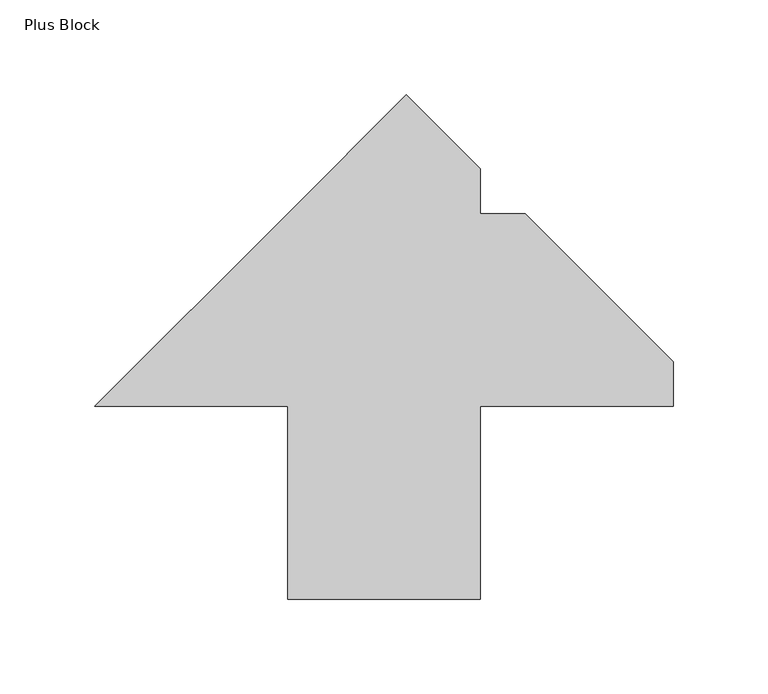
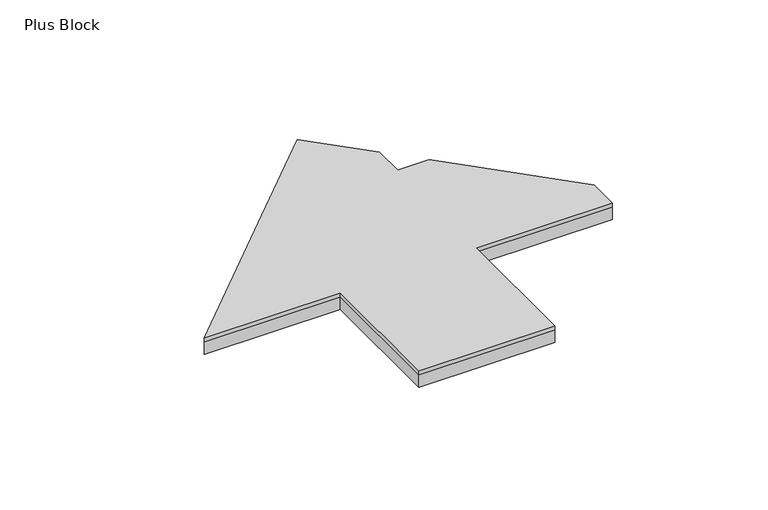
"""IFC4 building model written with IfcOpenShell, lengths in millimetres: proxy geometry, FilzFelt_Plus_Block : Plus Block."""

from ifc_helpers import new_model, si_unit, origin, place, context, project, spatial, faceted_brep, source, transform, mapped, element, save


def plus_block_c1fa0fc9(model_context):
    return source(origin(), model_context, "Body", "Brep", [
        faceted_brep([(152.5, -50.8333333, 10.0210937), (50.8333333, -50.8333333, 10.0210937), (50.8333333, -152.5, 10.0210937), (-50.8333333, -152.5, 10.0210937), (-50.8333333, -50.8333333, 10.0210937), (-152.5, -50.8333333, 10.0210937), (-50.8333333, 50.8333333, 10.0210937), (11.7896103, 113.4562769, 10.0210937), (50.8333333, 74.4125539, 10.0210937), (50.8333333, 50.8333333, 10.0210937), (74.4125539, 50.8333333, 10.0210937), (152.5, -27.2541128, 10.0210937), (-152.5, -50.8333333, 12.9976563), (-50.8333333, -50.8333333, 12.9976563), (-50.8333333, -152.5, 12.9976563), (50.8333333, -152.5, 12.9976563), (50.8333333, -50.8333333, 12.9976563), (152.5, -50.8333333, 12.9976563), (152.5, -27.2541128, 12.9976563), (74.4125539, 50.8333333, 12.9976563), (50.8333333, 50.8333333, 12.9976563), (50.8333333, 74.4125539, 12.9976563), (11.7896103, 113.4562769, 12.9976563), (-50.8333333, 50.8333333, 12.9976563)], [[[0, 1, 2, 3, 4, 5, 6, 7, 8, 9, 10, 11]], [[12, 13, 14, 15, 16, 17, 18, 19, 20, 21, 22, 23]], [[9, 20, 19, 10]], [[17, 0, 11, 18]], [[1, 0, 17, 16]], [[2, 1, 16, 15]], [[3, 2, 15, 14]], [[4, 3, 14, 13]], [[5, 4, 13, 12]], [[20, 9, 8, 21]], [[11, 10, 19, 18]], [[21, 8, 7, 22]], [[6, 5, 12, 23, 22, 7]]]),
        faceted_brep([(152.5, -50.8333333, 0.0), (50.8333333, -50.8333333, 0.0), (50.8333333, -152.5, 0.0), (-50.8333333, -152.5, 0.0), (-50.8333333, -50.8333333, 0.0), (-152.5, -50.8333333, 0.0), (-50.8333333, 50.8333333, 0.0), (11.7896103, 113.4562769, 0.0), (50.8333333, 74.4125539, 0.0), (50.8333333, 50.8333333, 0.0), (74.4125539, 50.8333333, 0.0), (152.5, -27.2541128, 0.0), (-152.5, -50.8333333, 10.0210937), (-50.8333333, -50.8333333, 10.0210937), (-50.8333333, -152.5, 10.0210937), (50.8333333, -152.5, 10.0210937), (50.8333333, -50.8333333, 10.0210937), (152.5, -50.8333333, 10.0210937), (152.5, -27.2541128, 10.0210937), (74.4125539, 50.8333333, 10.0210937), (50.8333333, 50.8333333, 10.0210937), (50.8333333, 74.4125539, 10.0210937), (11.7896103, 113.4562769, 10.0210937), (-50.8333333, 50.8333333, 10.0210937)], [[[0, 1, 2, 3, 4, 5, 6, 7, 8, 9, 10, 11]], [[12, 13, 14, 15, 16, 17, 18, 19, 20, 21, 22, 23]], [[3, 2, 15, 14]], [[17, 0, 11, 18]], [[20, 9, 8, 21]], [[9, 20, 19, 10]], [[1, 0, 17, 16]], [[2, 1, 16, 15]], [[4, 3, 14, 13]], [[5, 4, 13, 12]], [[11, 10, 19, 18]], [[21, 8, 7, 22]], [[6, 5, 12, 23, 22, 7]]]),
    ])


if __name__ == "__main__":
    model = new_model("IFC4")
    model_context = context("Model", 3, world=origin())
    ifc_project = project(units=[si_unit("LENGTHUNIT", "METRE", prefix="MILLI")], contexts=[model_context])
    site = spatial("IfcSite", under=ifc_project)
    building = spatial("IfcBuilding", under=site)
    placement = place(None, origin())
    plus_block_shape = plus_block_c1fa0fc9(model_context)
    element("IfcBuildingElementProxy", 1, Name="FilzFelt_Plus_Block : Plus Block", ObjectType="FilzFelt_Plus_Block : Plus Block", at=placement, inside=building, context=model_context, shape_type="MappedRepresentation", body=[
        mapped(plus_block_shape, transform((0.0, 0.0, 0.0), x_axis=(1.0, 0.0, 0.0), y_axis=(0.0, 1.0, 0.0), z_axis=(0.0, 0.0, 1.0))),
    ])
    save(model, "model.ifc")
